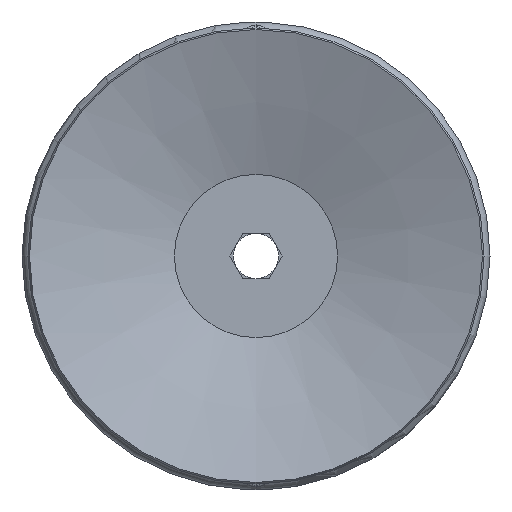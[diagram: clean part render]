
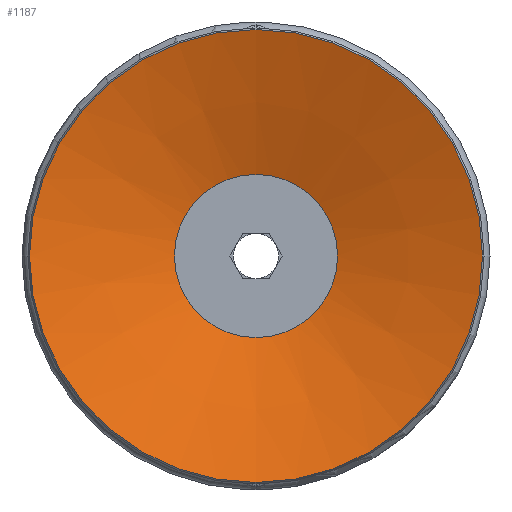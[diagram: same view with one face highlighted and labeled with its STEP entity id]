
A CAD part, front view. The second image highlights one B-rep face of the part: STEP entity #1187.
In plain terms, the highlighted conical face has half-angle 71.075 degrees and reference radius 15 mm.
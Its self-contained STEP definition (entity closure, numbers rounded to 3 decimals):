
#1187=ADVANCED_FACE('',(#2929,#2930),#2931,.F.);
#2929=FACE_BOUND('',#5312,.T.);
#2930=FACE_OUTER_BOUND('',#5313,.T.);
#2931=CONICAL_SURFACE('',#5314,15.0,1.24);
#5312=EDGE_LOOP('',(#8751));
#5313=EDGE_LOOP('',(#8752));
#5314=AXIS2_PLACEMENT_3D('',#8753,#8754,#8755);
#8751=ORIENTED_EDGE('',*,*,#15502,.T.);
#8752=ORIENTED_EDGE('',*,*,#15503,.T.);
#8753=CARTESIAN_POINT('',(0.,0.,0.0));
#8754=DIRECTION('',(0.0,0.,-1.0));
#8755=DIRECTION('',(0.0,1.0,0.));
#15502=EDGE_CURVE('',#19108,#19108,#19109,.T.);
#15503=EDGE_CURVE('',#19110,#19110,#19111,.T.);
#19108=VERTEX_POINT('',#25283);
#19109=CIRCLE('',#25284,5.4);
#19110=VERTEX_POINT('',#25285);
#19111=CIRCLE('',#25286,15.0);
#25283=CARTESIAN_POINT('',(-5.4,0.,3.291));
#25284=AXIS2_PLACEMENT_3D('',#30667,#30668,#30669);
#25285=CARTESIAN_POINT('',(0.,15.0,0.));
#25286=AXIS2_PLACEMENT_3D('',#30670,#30671,#30672);
#30667=CARTESIAN_POINT('',(0.,0.,3.291));
#30668=DIRECTION('',(0.,0.0,1.0));
#30669=DIRECTION('',(-1.0,0.0,0.));
#30670=CARTESIAN_POINT('',(0.,0.,0.0));
#30671=DIRECTION('',(0.0,0.,-1.0));
#30672=DIRECTION('',(0.0,1.0,0.));
